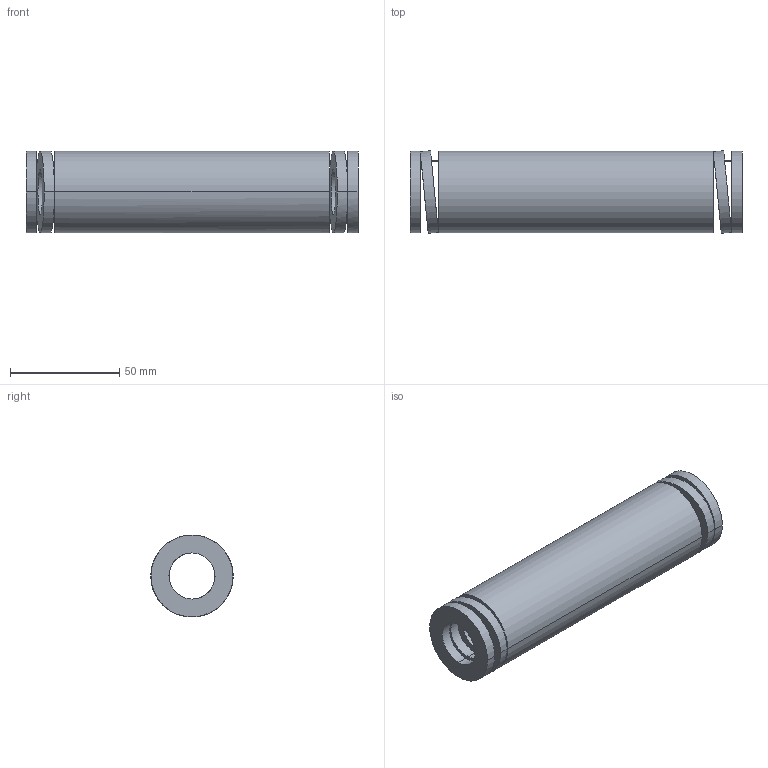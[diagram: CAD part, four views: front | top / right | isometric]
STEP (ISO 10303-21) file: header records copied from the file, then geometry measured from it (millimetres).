
FILE_DESCRIPTION(('CATIA V5 STEP Exchange'),'2;1');
FILE_NAME('C:\Users\Utente\Desktop\IO LAVORO\3D X SITO CF\X SITO\3D files 392B\392-B40-152.stp','2021-08-13T11:14:51+00:00',('none'),('none'),'CATIA Version 5 Release 20 GA (IN-10)','CATIA V5 STEP AP203','none');
FILE_SCHEMA(('CONFIG_CONTROL_DESIGN'));
Length unit declared in the file: millimetre
Products named in the file (1): 392-B40-152
Bounding box: 152 x 37.78 x 37.5 mm (x, y, z)
Volume: 109146.8 mm3; surface area: 34173.6 mm2
Topology: 1 solids, 1 shells, 38 faces, 92 edges, 64 vertices
Faces by surface type: cylinder 28, plane 10
Entity records: 1626 total; most frequent: CARTESIAN_POINT 747, ORIENTED_EDGE 184, DIRECTION 124, EDGE_CURVE 92, VERTEX_POINT 64, AXIS2_PLACEMENT_3D 59, EDGE_LOOP 56, B_SPLINE_CURVE_WITH_KNOTS 44
